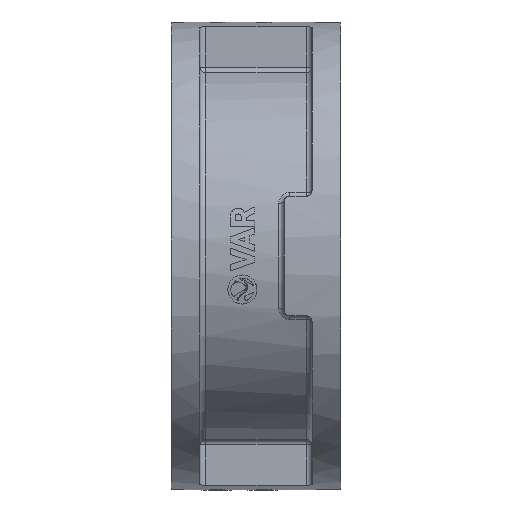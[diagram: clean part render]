
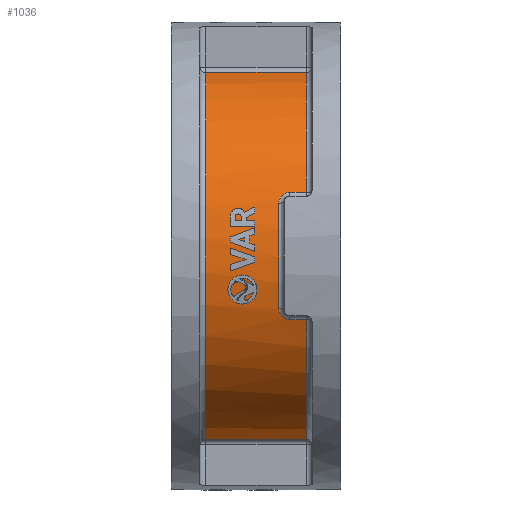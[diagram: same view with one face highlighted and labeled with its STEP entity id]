
A CAD part, left-side view. The second image highlights one B-rep face of the part: STEP entity #1036.
In plain terms, the highlighted cylindrical face has radius 51.7 mm (diameter 103.4 mm), a partial arc.
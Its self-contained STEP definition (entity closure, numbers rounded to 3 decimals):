
#1036=ADVANCED_FACE('',(#3820),#3822,.T.);
#3820=FACE_BOUND('',#3821,.T.);
#3821=EDGE_LOOP('',(#11317,#11318,#11319,#11320,#11321,#11322,#11323,#11324,#11325,
#11326));
#3822=CYLINDRICAL_SURFACE('',#3823,51.7);
#3823=AXIS2_PLACEMENT_3D('',#3824,#3825,#3826);
#3824=CARTESIAN_POINT('',(0.,7.8,0.));
#3825=DIRECTION('',(0.,1.,0.));
#3826=DIRECTION('',(-1.,0.,0.));
#11317=ORIENTED_EDGE('',*,*,#14107,.T.);
#11318=ORIENTED_EDGE('',*,*,#14108,.F.);
#11319=ORIENTED_EDGE('',*,*,#14109,.F.);
#11320=ORIENTED_EDGE('',*,*,#14110,.F.);
#11321=ORIENTED_EDGE('',*,*,#14111,.T.);
#11322=ORIENTED_EDGE('',*,*,#14112,.F.);
#11323=ORIENTED_EDGE('',*,*,#14113,.F.);
#11324=ORIENTED_EDGE('',*,*,#14114,.F.);
#11325=ORIENTED_EDGE('',*,*,#14115,.F.);
#11326=ORIENTED_EDGE('',*,*,#14116,.F.);
#14107=EDGE_CURVE('',#15255,#15256,#15257,.T.);
#14108=EDGE_CURVE('',#15258,#15256,#15259,.F.);
#14109=EDGE_CURVE('',#15260,#15258,#15261,.T.);
#14110=EDGE_CURVE('',#15262,#15260,#15263,.T.);
#14111=EDGE_CURVE('',#15262,#15264,#15265,.T.);
#14112=EDGE_CURVE('',#15266,#15264,#15267,.F.);
#14113=EDGE_CURVE('',#15268,#15266,#15269,.T.);
#14114=EDGE_CURVE('',#15270,#15268,#15271,.F.);
#14115=EDGE_CURVE('',#15272,#15270,#15273,.F.);
#14116=EDGE_CURVE('',#15255,#15272,#15274,.T.);
#15255=VERTEX_POINT('',#18312);
#15256=VERTEX_POINT('',#18313);
#15257=CIRCLE('',#18314,51.7);
#15258=VERTEX_POINT('',#18318);
#15259=LINE('',#18319,#18320);
#15260=VERTEX_POINT('',#18322);
#15261=CIRCLE('',#18323,51.7);
#15262=VERTEX_POINT('',#18327);
#15263=LINE('',#18328,#18329);
#15264=VERTEX_POINT('',#18331);
#15265=CIRCLE('',#18332,51.7);
#15266=VERTEX_POINT('',#18336);
#15267=LINE('',#18337,#18338);
#15268=VERTEX_POINT('',#18340);
#15269=B_SPLINE_CURVE_WITH_KNOTS('',3,
(#18341,#18342,#18343,#18344,#18345,#18346,#18347,#18348,#18349,#18350,#18351,#18352,
#18353,#18354,#18355,#18356,#18357,#18358,#18359,#18360,#18361,#18362,#18363,#18364),
.UNSPECIFIED.,.F.,.F.,
(4,1,1,1,1,1,1,1,1,1,1,1,1,1,1,1,1,1,1,1,1,4),
(0.,0.012,0.026,0.042,0.058,0.072,
0.089,0.112,0.143,0.186,0.24,
0.302,0.37,0.445,0.521,0.595,
0.665,0.732,0.799,0.861,0.928,
1.),
.UNSPECIFIED.);
#15270=VERTEX_POINT('',#18365);
#15271=CIRCLE('',#18366,51.7);
#15272=VERTEX_POINT('',#18370);
#15273=B_SPLINE_CURVE_WITH_KNOTS('',3,
(#18371,#18372,#18373,#18374,#18375,#18376,#18377,#18378,#18379,#18380,#18381,#18382,
#18383,#18384,#18385,#18386,#18387,#18388,#18389,#18390,#18391,#18392,#18393,#18394),
.UNSPECIFIED.,.F.,.F.,
(4,1,1,1,1,1,1,1,1,1,1,1,1,1,1,1,1,1,1,1,1,4),
(0.,0.012,0.026,0.042,0.058,
0.072,0.089,0.112,0.143,0.186,
0.24,0.302,0.37,0.445,0.521,
0.595,0.665,0.732,0.799,0.861,
0.928,1.),
.UNSPECIFIED.);
#15274=LINE('',#18395,#18396);
#18312=CARTESIAN_POINT('',(-48.737,9.3,17.25));
#18313=CARTESIAN_POINT('',(-13.848,9.3,49.811));
#18314=AXIS2_PLACEMENT_3D('',#18315,#18316,#18317);
#18315=CARTESIAN_POINT('',(0.,9.3,0.));
#18316=DIRECTION('',(0.,1.,0.));
#18317=DIRECTION('',(-0.943,0.,0.334));
#18318=CARTESIAN_POINT('',(-13.848,36.7,49.811));
#18319=CARTESIAN_POINT('',(-13.848,9.3,49.811));
#18320=VECTOR('',#18321,1.);
#18321=DIRECTION('',(0.,1.,0.));
#18322=CARTESIAN_POINT('',(-13.848,36.7,-49.811));
#18323=AXIS2_PLACEMENT_3D('',#18324,#18325,#18326);
#18324=CARTESIAN_POINT('',(0.,36.7,0.));
#18325=DIRECTION('',(0.,1.,0.));
#18326=DIRECTION('',(-0.268,0.,-0.963));
#18327=CARTESIAN_POINT('',(-13.848,9.3,-49.811));
#18328=CARTESIAN_POINT('',(-13.848,9.3,-49.811));
#18329=VECTOR('',#18330,1.);
#18330=DIRECTION('',(0.,1.,0.));
#18331=CARTESIAN_POINT('',(-48.737,9.3,-17.25));
#18332=AXIS2_PLACEMENT_3D('',#18333,#18334,#18335);
#18333=CARTESIAN_POINT('',(0.,9.3,0.));
#18334=DIRECTION('',(0.,1.,0.));
#18335=DIRECTION('',(-0.268,0.,-0.963));
#18336=CARTESIAN_POINT('',(-48.737,13.833,-17.25));
#18337=CARTESIAN_POINT('',(-48.737,9.3,-17.25));
#18338=VECTOR('',#18339,1.);
#18339=DIRECTION('',(0.,1.,0.));
#18340=CARTESIAN_POINT('',(-49.673,16.833,-14.334));
#18341=CARTESIAN_POINT('',(-49.673,16.833,-14.334));
#18342=CARTESIAN_POINT('',(-49.668,16.833,-14.351));
#18343=CARTESIAN_POINT('',(-49.657,16.831,-14.39));
#18344=CARTESIAN_POINT('',(-49.639,16.829,-14.452));
#18345=CARTESIAN_POINT('',(-49.619,16.827,-14.521));
#18346=CARTESIAN_POINT('',(-49.599,16.822,-14.587));
#18347=CARTESIAN_POINT('',(-49.579,16.815,-14.656));
#18348=CARTESIAN_POINT('',(-49.555,16.805,-14.736));
#18349=CARTESIAN_POINT('',(-49.524,16.789,-14.841));
#18350=CARTESIAN_POINT('',(-49.482,16.76,-14.982));
#18351=CARTESIAN_POINT('',(-49.426,16.712,-15.165));
#18352=CARTESIAN_POINT('',(-49.357,16.634,-15.389));
#18353=CARTESIAN_POINT('',(-49.279,16.522,-15.638));
#18354=CARTESIAN_POINT('',(-49.193,16.368,-15.904));
#18355=CARTESIAN_POINT('',(-49.107,16.173,-16.17));
#18356=CARTESIAN_POINT('',(-49.023,15.937,-16.422));
#18357=CARTESIAN_POINT('',(-48.948,15.676,-16.643));
#18358=CARTESIAN_POINT('',(-48.885,15.398,-16.828));
#18359=CARTESIAN_POINT('',(-48.833,15.11,-16.978));
#18360=CARTESIAN_POINT('',(-48.792,14.816,-17.094));
#18361=CARTESIAN_POINT('',(-48.762,14.508,-17.18));
#18362=CARTESIAN_POINT('',(-48.742,14.182,-17.236));
#18363=CARTESIAN_POINT('',(-48.737,13.952,-17.25));
#18364=CARTESIAN_POINT('',(-48.737,13.833,-17.25));
#18365=CARTESIAN_POINT('',(-49.673,16.833,14.334));
#18366=AXIS2_PLACEMENT_3D('',#18367,#18368,#18369);
#18367=CARTESIAN_POINT('',(0.,16.833,0.));
#18368=DIRECTION('',(0.,1.,0.));
#18369=DIRECTION('',(-0.961,0.,-0.277));
#18370=CARTESIAN_POINT('',(-48.737,13.833,17.25));
#18371=CARTESIAN_POINT('',(-49.673,16.833,14.334));
#18372=CARTESIAN_POINT('',(-49.668,16.833,14.351));
#18373=CARTESIAN_POINT('',(-49.657,16.831,14.39));
#18374=CARTESIAN_POINT('',(-49.639,16.829,14.452));
#18375=CARTESIAN_POINT('',(-49.619,16.827,14.521));
#18376=CARTESIAN_POINT('',(-49.599,16.822,14.587));
#18377=CARTESIAN_POINT('',(-49.579,16.815,14.656));
#18378=CARTESIAN_POINT('',(-49.555,16.805,14.736));
#18379=CARTESIAN_POINT('',(-49.524,16.789,14.841));
#18380=CARTESIAN_POINT('',(-49.482,16.76,14.982));
#18381=CARTESIAN_POINT('',(-49.426,16.712,15.165));
#18382=CARTESIAN_POINT('',(-49.357,16.634,15.389));
#18383=CARTESIAN_POINT('',(-49.279,16.522,15.638));
#18384=CARTESIAN_POINT('',(-49.193,16.368,15.904));
#18385=CARTESIAN_POINT('',(-49.107,16.173,16.17));
#18386=CARTESIAN_POINT('',(-49.023,15.937,16.422));
#18387=CARTESIAN_POINT('',(-48.948,15.676,16.643));
#18388=CARTESIAN_POINT('',(-48.885,15.398,16.828));
#18389=CARTESIAN_POINT('',(-48.833,15.11,16.978));
#18390=CARTESIAN_POINT('',(-48.792,14.816,17.094));
#18391=CARTESIAN_POINT('',(-48.762,14.508,17.18));
#18392=CARTESIAN_POINT('',(-48.742,14.182,17.236));
#18393=CARTESIAN_POINT('',(-48.737,13.952,17.25));
#18394=CARTESIAN_POINT('',(-48.737,13.833,17.25));
#18395=CARTESIAN_POINT('',(-48.737,9.3,17.25));
#18396=VECTOR('',#18397,1.);
#18397=DIRECTION('',(0.,1.,0.));
